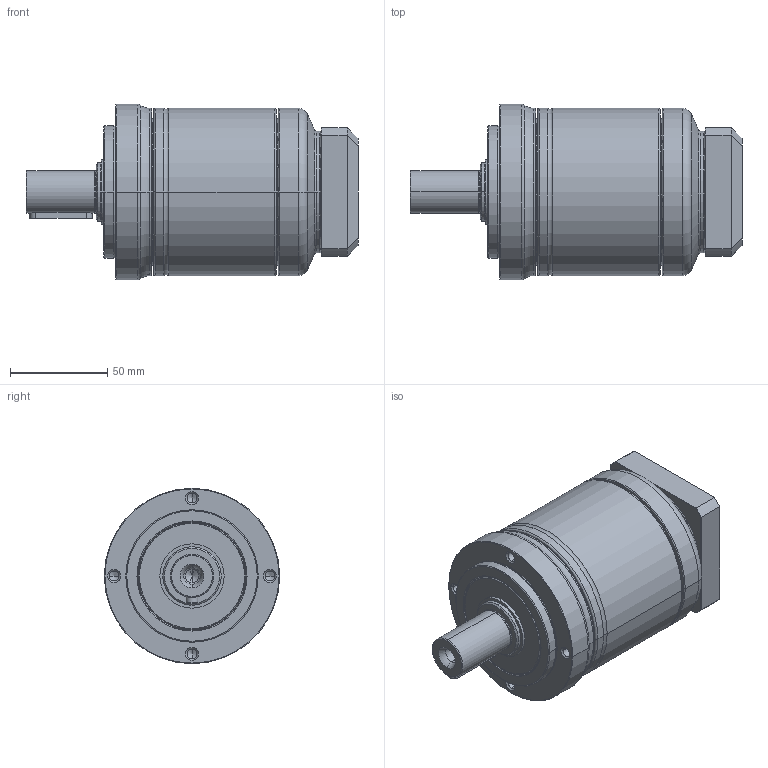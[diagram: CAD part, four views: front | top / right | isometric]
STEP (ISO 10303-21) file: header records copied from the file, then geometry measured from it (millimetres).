
FILE_DESCRIPTION((''),'2;1');
FILE_NAME('PE2-090_2ST_14-P0411300101_ASM','2017-06-02T',('d01943'),(''),'PRO/ENGINEER BY PARAMETRIC TECHNOLOGY CORPORATION, 2008410','PRO/ENGINEER BY PARAMETRIC TECHNOLOGY CORPORATION, 2008410','');
FILE_SCHEMA(('CONFIG_CONTROL_DESIGN'));
Length unit declared in the file: millimetre
Products named in the file (9): P1323310001; P0251300001; P1324300001; P0350301001; P0941300001; P0503300005; P0411300101; P1702300001; PE2-090_2ST_14-P0411300101_ASM
Assembly tree (8 placements, depth 2):
  PE2-090_2ST_14-P0411300101_ASM
    P1323310001
    P0251300001
    P1324300001
    P0350301001
    P0941300001
    P0503300005
    P0411300101
    P1702300001
Bounding box: 170.5 x 90 x 90 mm (x, y, z)
Volume: 501234.4 mm3; surface area: 119932.1 mm2
Topology: 8 solids, 8 shells, 472 faces, 1036 edges, 594 vertices
Faces by surface type: cone 138, cylinder 138, torus 102, plane 78, bspline 16
Entity records: 17378 total; most frequent: CARTESIAN_POINT 6780, DIRECTION 2419, ORIENTED_EDGE 2008, AXIS2_PLACEMENT_3D 1041, EDGE_CURVE 1004, VERTEX_POINT 594, CIRCLE 568, EDGE_LOOP 534
